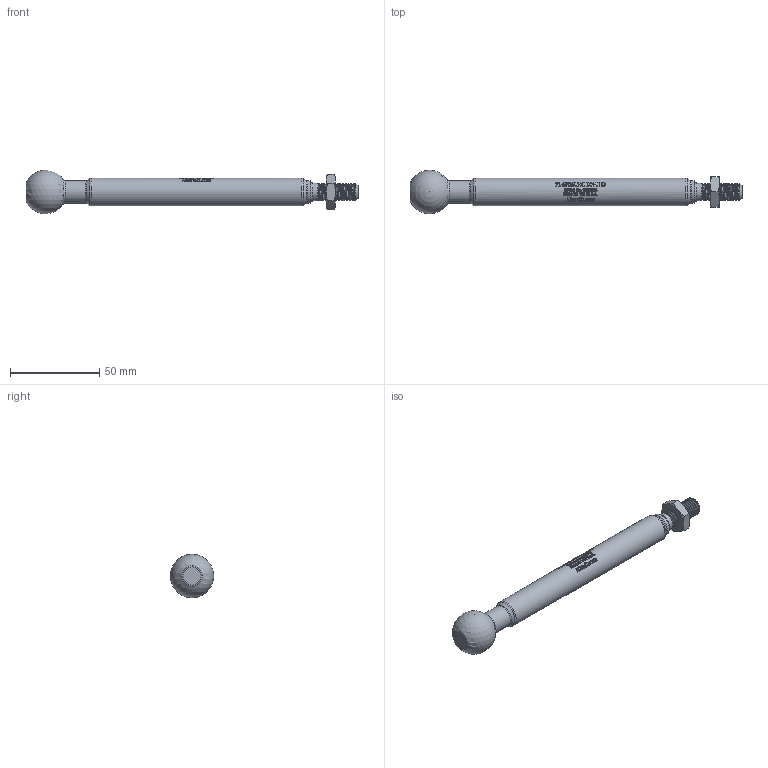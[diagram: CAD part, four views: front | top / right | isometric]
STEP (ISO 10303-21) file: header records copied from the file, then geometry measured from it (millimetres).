
FILE_DESCRIPTION(/* description */ (''),/* implementation_level */ '2;1');
FILE_NAME(/* name */ 'C:\Users\Doug Biddinger\Desktop\THREADED POST UPDATES\PL-SPOSTEXT7IN-THD.stp',/* time_stamp */ '2019-02-28T15:06:32-05:00',/* author */ ('Doug Biddinger'),/* organization */ (''),/* preprocessor_version */ 'ST-DEVELOPER v17',/* originating_system */ 'Autodesk Inventor 2019',/* authorisation */ '');
FILE_SCHEMA (('CONFIG_CONTROL_DESIGN'));
Length unit declared in the file: inch
Products named in the file (4): PL-SPOST7IN-THD; 60032; 60108; 60002
Assembly tree (3 placements, depth 2):
  PL-SPOST7IN-THD
    60032
    60108
    60002
Bounding box: 185.52 x 24.18 x 24.36 mm (x, y, z)
Volume: 34075.4 mm3; surface area: 12941.8 mm2
Topology: 4 solids, 4 shells, 948 faces, 2589 edges, 1729 vertices
Faces by surface type: plane 423, bspline 369, cylinder 115, cone 30, torus 10, sphere 1
Full cylindrical faces by diameter (mm): 4.978 x1, 8.042 x2, 9 x2, 9.487 x1, 9.525 x1, 9.589 x1, 10 x20, 12.611 x1, 12.7 x1, 15.367 x1
Entity records: 45347 total; most frequent: CARTESIAN_POINT 23332, ORIENTED_EDGE 5170, DIRECTION 3463, EDGE_CURVE 2585, VERTEX_POINT 1729, LINE 1203, VECTOR 1203, AXIS2_PLACEMENT_3D 1130
